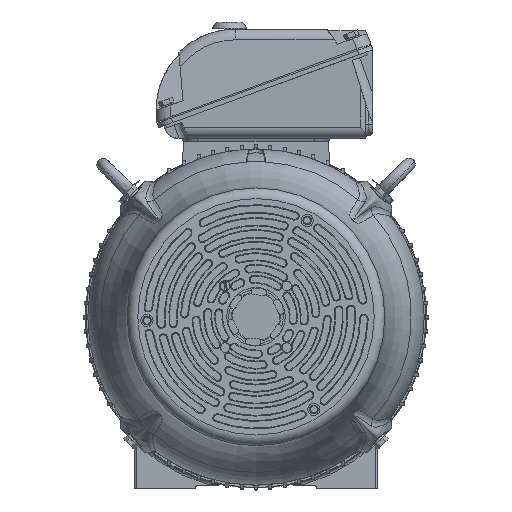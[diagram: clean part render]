
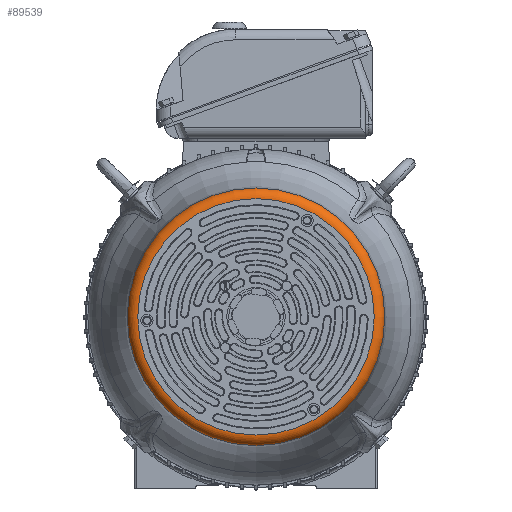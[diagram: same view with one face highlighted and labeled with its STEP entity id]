
A CAD part, top view. The second image highlights one B-rep face of the part: STEP entity #89539.
In plain terms, the highlighted toroidal (fillet/blend) face has major radius 156 mm and minor radius 14 mm.
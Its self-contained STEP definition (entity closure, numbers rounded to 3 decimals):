
#5558=TOROIDAL_SURFACE('',#97023,156.,14.);
#11296=FACE_OUTER_BOUND('',#16596,.T.);
#16596=EDGE_LOOP('',(#70708,#70709,#70710,#70711,#70712,#70713));
#21297=CIRCLE('',#97024,170.);
#21298=CIRCLE('',#97025,170.);
#21299=CIRCLE('',#97026,14.);
#21300=CIRCLE('',#97027,156.);
#21301=CIRCLE('',#97028,156.);
#39001=VERTEX_POINT('',#159141);
#39002=VERTEX_POINT('',#159142);
#39003=VERTEX_POINT('',#159145);
#39004=VERTEX_POINT('',#159147);
#50171=EDGE_CURVE('',#39001,#39002,#21297,.T.);
#50172=EDGE_CURVE('',#39002,#39001,#21298,.T.);
#50173=EDGE_CURVE('',#39002,#39003,#21299,.T.);
#50174=EDGE_CURVE('',#39003,#39004,#21300,.T.);
#50175=EDGE_CURVE('',#39004,#39003,#21301,.T.);
#70708=ORIENTED_EDGE('',*,*,#50171,.F.);
#70709=ORIENTED_EDGE('',*,*,#50172,.F.);
#70710=ORIENTED_EDGE('',*,*,#50173,.T.);
#70711=ORIENTED_EDGE('',*,*,#50174,.T.);
#70712=ORIENTED_EDGE('',*,*,#50175,.T.);
#70713=ORIENTED_EDGE('',*,*,#50173,.F.);
#89539=ADVANCED_FACE('',(#11296),#5558,.T.);
#97023=AXIS2_PLACEMENT_3D('',#159140,#114717,#114718);
#97024=AXIS2_PLACEMENT_3D('',#159143,#114719,#114720);
#97025=AXIS2_PLACEMENT_3D('',#159144,#114721,#114722);
#97026=AXIS2_PLACEMENT_3D('',#159146,#114723,#114724);
#97027=AXIS2_PLACEMENT_3D('',#159148,#114725,#114726);
#97028=AXIS2_PLACEMENT_3D('',#159149,#114727,#114728);
#114717=DIRECTION('center_axis',(0.,0.,
-1.));
#114718=DIRECTION('ref_axis',(0.,1.,0.));
#114719=DIRECTION('center_axis',(0.,0.,
-1.));
#114720=DIRECTION('ref_axis',(0.,1.,0.));
#114721=DIRECTION('center_axis',(0.,0.,
-1.));
#114722=DIRECTION('ref_axis',(0.,1.,0.));
#114723=DIRECTION('center_axis',(-1.,0.,0.));
#114724=DIRECTION('ref_axis',(0.,-1.,0.));
#114725=DIRECTION('center_axis',(0.,0.,
-1.));
#114726=DIRECTION('ref_axis',(0.,1.,0.));
#114727=DIRECTION('center_axis',(0.,0.,
-1.));
#114728=DIRECTION('ref_axis',(0.,1.,0.));
#159140=CARTESIAN_POINT('Origin',(0.,0.,
882.764));
#159141=CARTESIAN_POINT('',(0.,170.,882.764));
#159142=CARTESIAN_POINT('',(0.,-170.,882.764));
#159143=CARTESIAN_POINT('Origin',(0.,0.,
882.764));
#159144=CARTESIAN_POINT('Origin',(0.,0.,
882.764));
#159145=CARTESIAN_POINT('',(0.,-156.,896.764));
#159146=CARTESIAN_POINT('Origin',(0.,-156.,
882.764));
#159147=CARTESIAN_POINT('',(0.,156.,896.764));
#159148=CARTESIAN_POINT('Origin',(0.,0.,
896.764));
#159149=CARTESIAN_POINT('Origin',(0.,0.,
896.764));
